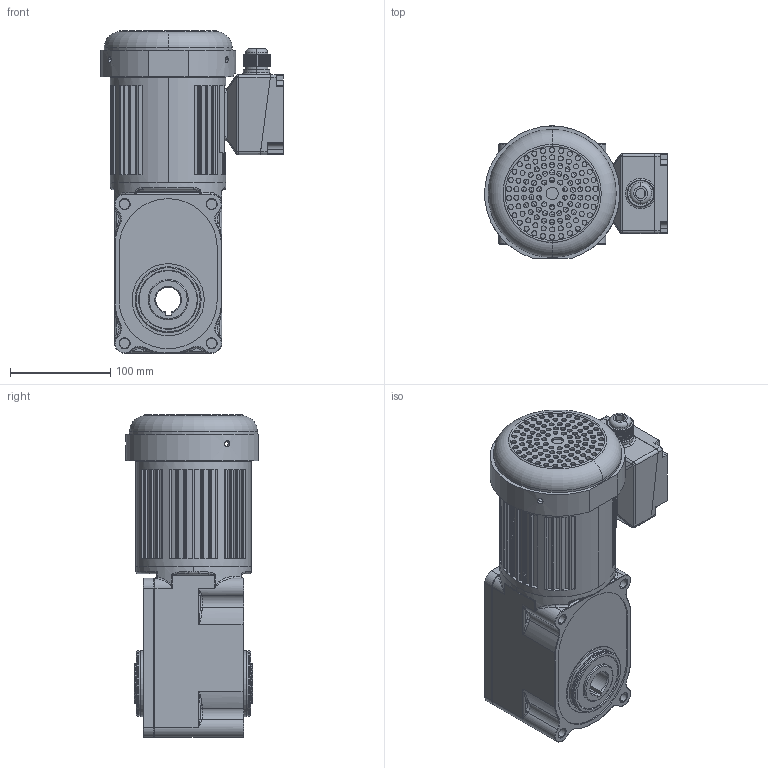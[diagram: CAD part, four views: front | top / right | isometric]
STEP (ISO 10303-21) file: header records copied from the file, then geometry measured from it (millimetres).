
FILE_DESCRIPTION (( 'STEP AP203' ), '1' );
FILE_NAME ('ZDF3-25H80K-240K-100-S3.STEP', '2020-05-05T06:08:40', ( '' ), ( '' ), 'SwSTEP 2.0', 'SolidWorks 2019', '' );
FILE_SCHEMA (( 'CONFIG_CONTROL_DESIGN' ));
Length unit declared in the file: millimetre
Products named in the file (3): ZDF3-25H80K-240K-100-S3(B); 嫖萇儂; ZDF3-25H80K-240K-100-S3
Assembly tree (2 placements, depth 2):
  ZDF3-25H80K-240K-100-S3
    ZDF3-25H80K-240K-100-S3(B)
    嫖萇儂
Bounding box: 182.35 x 132 x 322.33 mm (x, y, z)
Volume: 2120103.5 mm3; surface area: 380241.5 mm2
Topology: 8 solids, 8 shells, 2053 faces, 5297 edges, 3299 vertices
Faces by surface type: cylinder 1082, plane 463, torus 224, bspline 144, cone 81, sphere 59
Entity records: 75520 total; most frequent: CARTESIAN_POINT 24730, DIRECTION 11073, ORIENTED_EDGE 10508, EDGE_CURVE 5254, AXIS2_PLACEMENT_3D 4536, VERTEX_POINT 3299, CIRCLE 2622, EDGE_LOOP 2407
